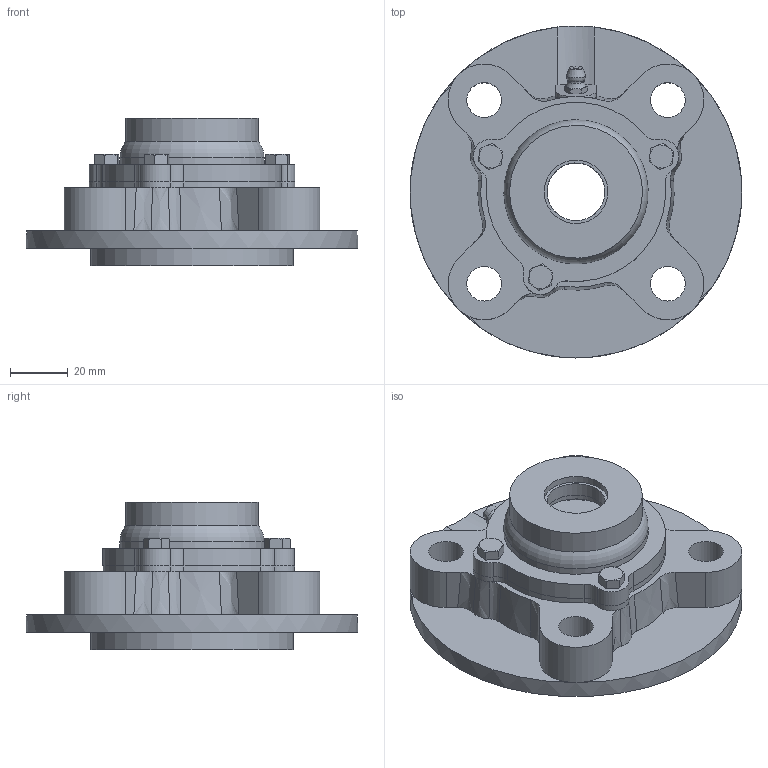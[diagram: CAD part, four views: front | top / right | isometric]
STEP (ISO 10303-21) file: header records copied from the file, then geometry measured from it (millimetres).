
FILE_DESCRIPTION((''),'2;1');
FILE_NAME('\\Ts-tgl068\j-cad-d-base\00.3DCADデータ作成フォルダ\02.フランジ形\CUKFC200\CUKFC205C+H.stp','2014-05-22T08:54:17',('btec_1106_2'),(''),'Autodesk Inventor 2012','Autodesk Inventor 2012','');
FILE_SCHEMA(('AUTOMOTIVE_DESIGN { 1 0 10303 214 1 1 1 1 }'));
Length unit declared in the file: millimetre
Products named in the file (7): CUKFC200C+H; CFC205; UK205; GU1; 205C20R; 205C20; M5X0
Assembly tree (8 placements, depth 3):
  CUKFC200C+H
    CFC205
    UK205
    GU1
    205C20R
      205C20
      M5X0  x3
Bounding box: 115 x 115 x 51 mm (x, y, z)
Volume: 179100.4 mm3; surface area: 58748.5 mm2
Topology: 7 solids, 7 shells, 308 faces, 774 edges, 497 vertices
Faces by surface type: plane 118, cylinder 89, cone 78, bspline 14, torus 5, sphere 4
Full cylindrical faces by diameter (mm): 4.134 x3, 5 x3, 5.359 x1, 6 x3, 6.35 x1, 12 x4, 20 x2, 22 x2, 34 x2, 44 x1, 46 x1, 50 x2, 54 x2, 70 x1, 115 x1
Entity records: 8617 total; most frequent: CARTESIAN_POINT 2288, ORIENTED_EDGE 1284, DIRECTION 1259, EDGE_CURVE 642, AXIS2_PLACEMENT_3D 533, VERTEX_POINT 435, EDGE_LOOP 356, FACE_OUTER_BOUND 274
